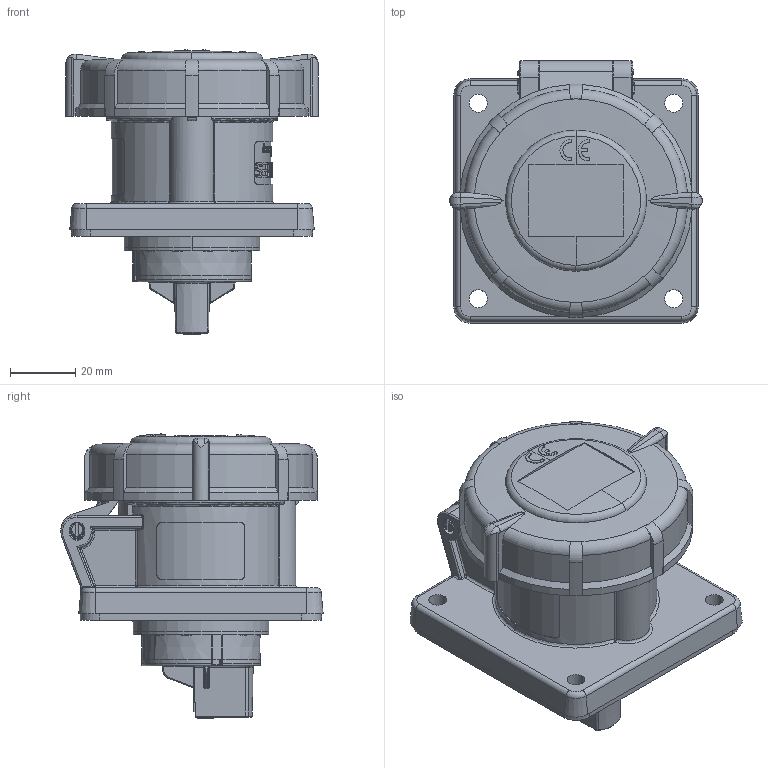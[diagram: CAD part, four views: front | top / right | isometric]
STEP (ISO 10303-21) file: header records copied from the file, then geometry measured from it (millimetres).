
FILE_DESCRIPTION((''),'2;1');
FILE_NAME('1113589_ASM_SW0001','2017-11-02T',('gisse'),('MENNEKES'),'PRO/ENGINEER BY PARAMETRIC TECHNOLOGY CORPORATION, 2015440','PRO/ENGINEER BY PARAMETRIC TECHNOLOGY CORPORATION, 2015440','');
FILE_SCHEMA(('AUTOMOTIVE_DESIGN { 1 0 10303 214 1 1 1 1 }'));
Products named in the file (1): 1113589_ASM_SW0001
Bounding box: 77.55 x 80.5 x 87.17 mm (x, y, z)
Volume: 200006.6 mm3; surface area: 35278.9 mm2
Topology: 1 solids, 1 shells, 1288 faces, 3477 edges, 2242 vertices
Faces by surface type: plane 759, cylinder 280, bspline 109, torus 74, cone 52, sphere 14
Entity records: 73084 total; most frequent: CARTESIAN_POINT 16607, ORIENTED_EDGE 6946, DIRECTION 5634, PRESENTATION_STYLE_ASSIGNMENT 4728, STYLED_ITEM 3474, CURVE_STYLE 3473, EDGE_CURVE 3473, FILL_AREA_STYLE_COLOUR 2509
